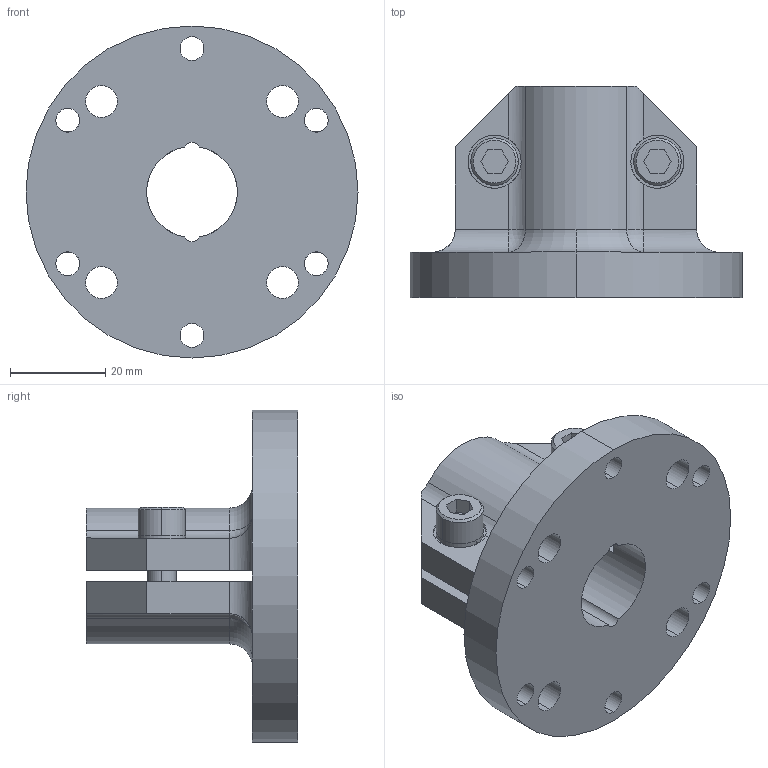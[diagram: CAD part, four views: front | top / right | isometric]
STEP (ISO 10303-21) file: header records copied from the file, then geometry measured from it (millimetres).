
FILE_DESCRIPTION (( 'STEP AP214' ), '1' );
FILE_NAME ('RTI-FCV-75-R.STEP', '2013-10-22T14:02:47', ( 'user' ), ( '' ), 'SwSTEP 2.0', 'SolidWorks 2009', '' );
FILE_SCHEMA (( 'AUTOMOTIVE_DESIGN' ));
Length unit declared in the file: inch
Products named in the file (4): RTI-FCV-75-R; M6 WASHER; M6 S.H.C.S._M6x16mm
Assembly tree (5 placements, depth 2):
  RTI-FCV-75-R
    M6 WASHER  x2
    M6 S.H.C.S._M6x16mm  x2
    RTI-FCV-75-R
Bounding box: 69.85 x 44.45 x 69.85 mm (x, y, z)
Volume: 53646.3 mm3; surface area: 20814.3 mm2
Topology: 5 solids, 5 shells, 438 faces, 1139 edges, 746 vertices
Faces by surface type: plane 266, bspline 88, cylinder 70, cone 8, torus 3, sphere 3
Entity records: 22129 total; most frequent: CARTESIAN_POINT 8203, ORIENTED_EDGE 2170, DIRECTION 1704, EDGE_CURVE 1085, LINE 758, VECTOR 758, VERTEX_POINT 714, EDGE_LOOP 483
